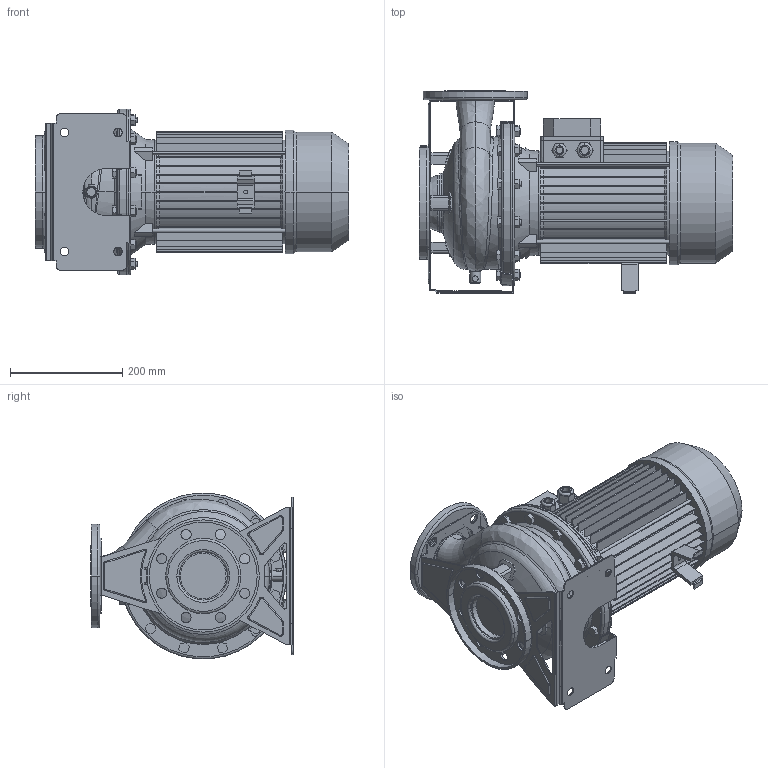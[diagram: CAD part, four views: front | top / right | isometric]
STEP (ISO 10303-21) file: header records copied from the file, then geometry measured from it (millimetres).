
FILE_DESCRIPTION((''),'2;1');
FILE_NAME('3M_65-160_7_5_IE3_ASM','2014-12-12T',('Rosa'),('"Ebara Pumps Europe +39.444.706811"'),'PRO/ENGINEER BY PARAMETRIC TECHNOLOGY CORPORATION, 2009360','PRO/ENGINEER BY PARAMETRIC TECHNOLOGY CORPORATION, 2009360','');
FILE_SCHEMA(('AUTOMOTIVE_DESIGN { 1 0 10303 214 1 1 1 1 }'));
Length unit declared in the file: millimetre
Products named in the file (11): CORPO_65-160_AF0; ASP_65-160; FLANGIA_DIN_80_8_FORI; MAND_65-160; FLANGIA_DIN_65; BASE_3M_65-160; CORPO_SALDATO_65-160_ASM; SUPPORTO_3M_230_112; MEC_112X200_IE3; SOSTEGNO_72008; 3M_65-160_7_5_IE3_ASM
Assembly tree (10 placements, depth 3):
  3M_65-160_7_5_IE3_ASM
    CORPO_SALDATO_65-160_ASM
      CORPO_65-160_AF0
      ASP_65-160
      FLANGIA_DIN_80_8_FORI
      MAND_65-160
      FLANGIA_DIN_65
      BASE_3M_65-160
    SUPPORTO_3M_230_112
    MEC_112X200_IE3
    SOSTEGNO_72008
Bounding box: 559 x 360 x 295.13 mm (x, y, z)
Volume: 13634679.7 mm3; surface area: 1594600.1 mm2
Topology: 12 solids, 12 shells, 1136 faces, 2889 edges, 1848 vertices
Faces by surface type: plane 615, cylinder 324, cone 96, torus 62, bspline 33, sphere 6
Entity records: 49974 total; most frequent: CARTESIAN_POINT 10195, DIRECTION 5912, ORIENTED_EDGE 5778, PRESENTATION_STYLE_ASSIGNMENT 2901, STYLED_ITEM 2901, CURVE_STYLE 2889, EDGE_CURVE 2889, AXIS2_PLACEMENT_3D 2138
